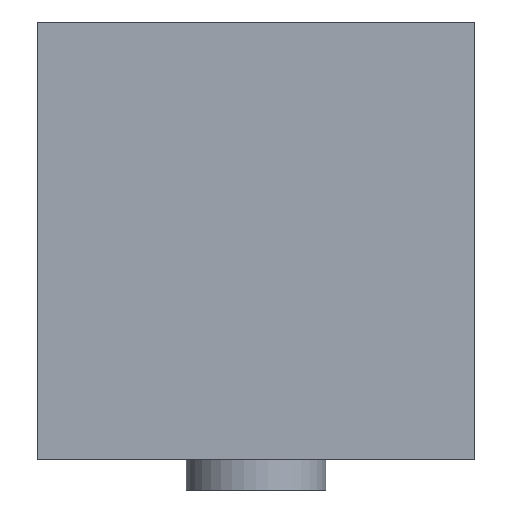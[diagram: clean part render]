
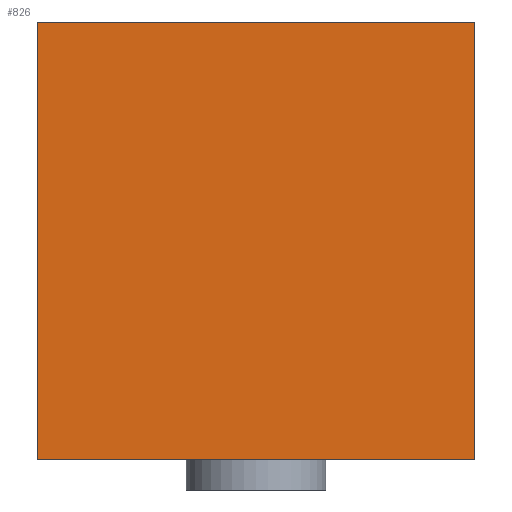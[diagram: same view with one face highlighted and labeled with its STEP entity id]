
A CAD part, front view. The second image highlights one B-rep face of the part: STEP entity #826.
In plain terms, the highlighted planar face has unit normal (0, -1, 0).
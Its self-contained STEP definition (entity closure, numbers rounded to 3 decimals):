
#39=LINE('',#1394,#75);
#47=LINE('',#1408,#83);
#48=LINE('',#1411,#84);
#49=LINE('',#1412,#85);
#75=VECTOR('',#1172,10.);
#83=VECTOR('',#1186,10.);
#84=VECTOR('',#1189,10.);
#85=VECTOR('',#1190,10.);
#113=PLANE('',#941);
#233=FACE_OUTER_BOUND('',#353,.T.);
#353=EDGE_LOOP('',(#734,#735,#736,#737));
#478=VERTEX_POINT('',#1391);
#479=VERTEX_POINT('',#1393);
#482=VERTEX_POINT('',#1406);
#483=VERTEX_POINT('',#1410);
#560=EDGE_CURVE('',#478,#479,#39,.T.);
#568=EDGE_CURVE('',#478,#482,#47,.T.);
#569=EDGE_CURVE('',#483,#482,#48,.T.);
#570=EDGE_CURVE('',#479,#483,#49,.T.);
#734=ORIENTED_EDGE('',*,*,#560,.F.);
#735=ORIENTED_EDGE('',*,*,#568,.T.);
#736=ORIENTED_EDGE('',*,*,#569,.F.);
#737=ORIENTED_EDGE('',*,*,#570,.F.);
#826=ADVANCED_FACE('',(#233),#113,.T.);
#941=AXIS2_PLACEMENT_3D('',#1409,#1187,#1188);
#1172=DIRECTION('',(-1.,0.,0.));
#1186=DIRECTION('',(0.,0.,1.));
#1187=DIRECTION('center_axis',(0.,-1.,0.));
#1188=DIRECTION('ref_axis',(1.,0.,0.));
#1189=DIRECTION('',(1.,0.,0.));
#1190=DIRECTION('',(0.,0.,1.));
#1391=CARTESIAN_POINT('',(250.,-100.,0.));
#1393=CARTESIAN_POINT('',(-250.,-100.,0.));
#1394=CARTESIAN_POINT('',(250.,-100.,0.));
#1406=CARTESIAN_POINT('',(250.,-100.,500.));
#1408=CARTESIAN_POINT('',(250.,-100.,0.));
#1409=CARTESIAN_POINT('Origin',(-250.,-100.,0.));
#1410=CARTESIAN_POINT('',(-250.,-100.,500.));
#1411=CARTESIAN_POINT('',(250.,-100.,500.));
#1412=CARTESIAN_POINT('',(-250.,-100.,0.));
